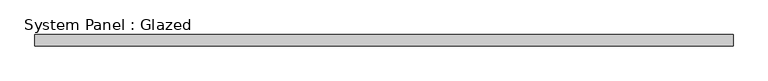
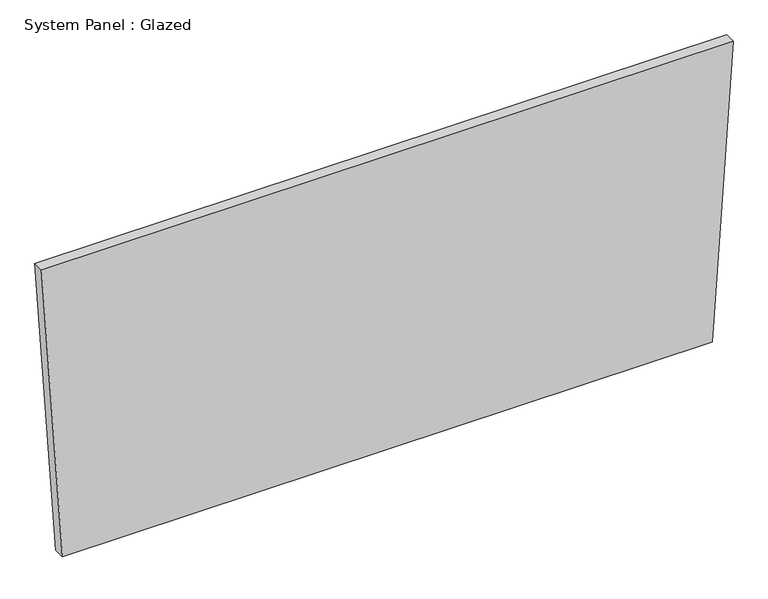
"""IFC4 building model written with IfcOpenShell, lengths in millimetres: plate geometry, System Panel : Glazed."""

from ifc_helpers import new_model, si_unit, frame, origin, place, context, project, spatial, polyline, outline, extrude, source, transform, mapped, element, save


def system_panel_glazed_fb5c626f(model_context):
    return source(origin(), model_context, "Body", "SweptSolid", [
        extrude(outline(polyline([(0.0, -734.4115779), (0.0002593, 734.4115953), (702.4025527, 781.6953002), (702.4025527, -781.6953002), (0.0, -734.4115779)])), frame((0.0, 19.05, 0.0), z_axis=(0.0, 1.0, 0.0), x_axis=(0.0, 0.0, 1.0)), (0.0, 0.0, 1.0), 25.4),
    ])


if __name__ == "__main__":
    model = new_model("IFC4")
    model_context = context("Model", 3, world=origin())
    ifc_project = project(units=[si_unit("LENGTHUNIT", "METRE", prefix="MILLI")], contexts=[model_context])
    site = spatial("IfcSite", under=ifc_project)
    building = spatial("IfcBuilding", under=site)
    placement = place(None, origin())
    system_panel_glazed_shape = system_panel_glazed_fb5c626f(model_context)
    element("IfcPlate", 1, ObjectType="System Panel : Glazed", at=placement, inside=building, context=model_context, shape_type="MappedRepresentation", body=[
        mapped(system_panel_glazed_shape, transform((0.0, 0.0, 0.0), x_axis=(1.0, 0.0, 0.0), y_axis=(0.0, 1.0, 0.0), z_axis=(0.0, 0.0, 1.0))),
    ])
    save(model, "model.ifc")
